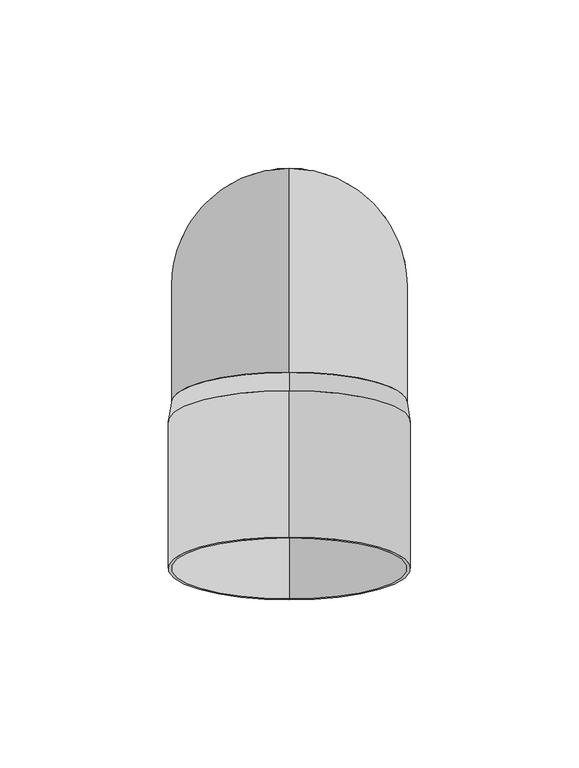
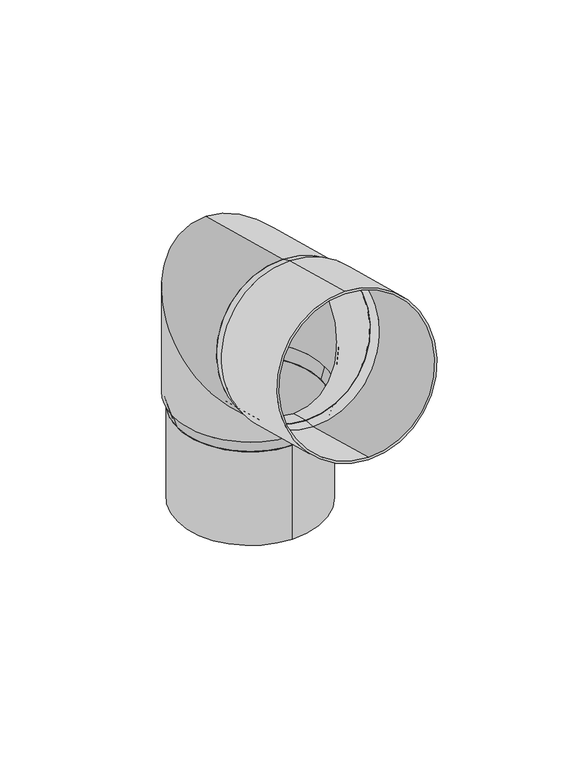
"""IFC4 building model written with IfcOpenShell, lengths in millimetres: proxy geometry, GROVIK_Downpipe_Knee : N70_75°_Up."""

from ifc_helpers import new_model, si_unit, point, frame, origin, origin_with_axes, origin_2d, place, context, project, spatial, polyline, circle_curve, ellipse_curve, trimmed, segment, composite_curve, outline, extrude, source, transform, mapped, element, save
from ifc_brep_helpers import plane_surface, cylinder_surface, revolved_surface, advanced_brep


def generic_models_ea91117c(model_context):
    return source(origin(), model_context, "Body", "SolidModel", [
        extrude(outline(composite_curve([segment(trimmed(circle_curve(origin_2d(), 33.2), [point((0.0, 33.2))], [point((0.0, -33.2))], False, "CARTESIAN"), True, "CONTINUOUS"), segment(trimmed(circle_curve(origin_2d(), 33.2), [point((0.0, -33.2))], [point((0.0, 33.2))], False, "CARTESIAN"), True, "CONTINUOUS")], self_intersect=False), holes=[composite_curve([segment(trimmed(circle_curve(origin_2d(), 32.2), [point((0.0, 32.2))], [point((0.0, -32.2))], True, "CARTESIAN"), True, "CONTINUOUS"), segment(trimmed(circle_curve(origin_2d(), 32.2), [point((0.0, -32.2))], [point((0.0, 32.2))], True, "CARTESIAN"), True, "CONTINUOUS")], self_intersect=False)]), frame((0.0, 0.0, -51.0), z_axis=(0.0, 0.0, 1.0), x_axis=(1.0, 0.0, 0.0)), (0.0, 0.0, 1.0), 45.0),
        advanced_brep(
        [(0.0, 35.0, 0.0), (0.0, -35.0, 0.0), (0.0, 34.0, 0.0), (0.0, -34.0, 0.0), (0.0, 34.0, 61.9891176), (0.0, -34.0, 9.8108824), (0.0, 35.0, 62.7564446), (0.0, -35.0, 9.0435554), (0.0, -25.6180706, 78.9990076), (0.0, -43.7354037, 11.3841998), (0.0, -25.8768896, 78.0330818), (0.0, -43.4765847, 12.3501256)],
        [
            (0, 1, circle_curve(frame((0.0, 0.0, 0.0), z_axis=(0.0, 0.0, -1.0), x_axis=(0.0, -1.0, 0.0)), 35.0)),
            (1, 0, circle_curve(frame((0.0, 0.0, 0.0), z_axis=(0.0, 0.0, -1.0), x_axis=(0.0, -1.0, 0.0)), 35.0)),
            (2, 3, circle_curve(frame((0.0, 0.0, 0.0), z_axis=(0.0, 0.0, 1.0), x_axis=(0.0, -1.0, 0.0)), 34.0)),
            (3, 2, circle_curve(frame((0.0, 0.0, 0.0), z_axis=(0.0, 0.0, 1.0), x_axis=(0.0, -1.0, 0.0)), 34.0)),
            (2, 4),
            (4, 5, ellipse_curve(frame((0.0, 0.0, 35.9), z_axis=(0.0, -0.6087614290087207, 0.7933533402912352), x_axis=(0.0, 0.7933533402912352, 0.6087614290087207)), 42.8560621, 34.0)),
            (5, 3),
            (5, 4, ellipse_curve(frame((0.0, 0.0, 35.9), z_axis=(0.0, -0.6087614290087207, 0.7933533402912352), x_axis=(0.0, 0.7933533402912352, 0.6087614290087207)), 42.8560621, 34.0)),
            (0, 6),
            (6, 7, ellipse_curve(frame((0.0, 0.0, 35.9), z_axis=(0.0, 0.6087614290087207, -0.7933533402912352), x_axis=(0.0, -0.7933533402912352, -0.6087614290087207)), 44.1165345, 35.0)),
            (7, 1),
            (7, 6, ellipse_curve(frame((0.0, 0.0, 35.9), z_axis=(0.0, 0.6087614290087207, -0.7933533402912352), x_axis=(0.0, -0.7933533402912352, -0.6087614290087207)), 44.1165345, 35.0)),
            (8, 9, circle_curve(frame((0.0, -34.6767372, 45.1916037), z_axis=(0.0, -0.9659258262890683, 0.25881904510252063), x_axis=(0.0, -0.25881904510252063, -0.9659258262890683)), 35.0)),
            (9, 8, circle_curve(frame((0.0, -34.6767372, 45.1916037), z_axis=(0.0, -0.9659258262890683, 0.25881904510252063), x_axis=(0.0, -0.25881904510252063, -0.9659258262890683)), 35.0)),
            (10, 11, circle_curve(frame((0.0, -34.6767372, 45.1916037), z_axis=(0.0, 0.9659258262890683, -0.25881904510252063), x_axis=(0.0, -0.25881904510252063, -0.9659258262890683)), 34.0)),
            (11, 10, circle_curve(frame((0.0, -34.6767372, 45.1916037), z_axis=(0.0, 0.9659258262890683, -0.25881904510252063), x_axis=(0.0, -0.25881904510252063, -0.9659258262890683)), 34.0)),
            (4, 10),
            (11, 5),
            (6, 8),
            (9, 7),
        ],
        [
            plane_surface(frame((0.0, 0.0, 0.0), z_axis=(0.0, 0.0, -1.0), x_axis=(1.0, 0.0, 0.0))),
            revolved_surface(polyline([(0.0, -34.0, 61.98911760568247), (0.0, -34.0, 0.0)]), (0.0, 0.0, 0.0), (0.0, 0.0, 1.0)),
            cylinder_surface(frame((0.0, 0.0, 0.0), z_axis=(0.0, 0.0, -1.0), x_axis=(0.0, -1.0, 0.0)), 35.0),
            plane_surface(frame((0.0, -34.6767372, 45.1916037), z_axis=(0.0, -0.9659258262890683, 0.25881904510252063), x_axis=(1.0, 0.0, 0.0))),
            revolved_surface(polyline([(0.0, -43.476584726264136, 12.350125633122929), (0.0, 16.40030494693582, -3.6938386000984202)]), (0.0, 0.0, 35.9), (0.0, -0.9659258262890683, 0.25881904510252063)),
            cylinder_surface(frame((0.0, 0.0, 35.9), z_axis=(0.0, 0.9659258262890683, -0.25881904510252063), x_axis=(0.0, -0.25881904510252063, -0.9659258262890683)), 35.0),
        ],
        [
            (0, [[1, 2], [3, 4]]),
            (1, [[-3, 5, 6, 7]]),
            (1, [[-4, -7, 8, -5]]),
            (2, [[-1, 9, 10, 11]]),
            (2, [[-2, -11, 12, -9]]),
            (3, [[13, 14], [15, 16]]),
            (4, [[-6, 17, -16, 18]]),
            (4, [[-8, -18, -15, -17]]),
            (5, [[-10, 19, -14, 20]]),
            (5, [[-12, -20, -13, -19]]),
        ],
    ),
        advanced_brep(
        [(-33.2, 0.0, -6.0), (33.2, 0.0, -6.0), (-32.2, 0.0, -6.0), (32.2, 0.0, -6.0), (-35.0, 0.0, 0.0), (35.0, 0.0, 0.0), (34.0, 0.0, 0.0), (-34.0, 0.0, 0.0)],
        [
            (0, 1, circle_curve(frame((0.0, 0.0, -6.0), z_axis=(0.0, 0.0, -1.0), x_axis=(-1.0, 0.0, 0.0)), 33.2)),
            (1, 0, circle_curve(frame((0.0, 0.0, -6.0), z_axis=(0.0, 0.0, -1.0), x_axis=(1.0, 0.0, 0.0)), 33.2)),
            (2, 3, circle_curve(frame((0.0, 0.0, -6.0), z_axis=(0.0, 0.0, 1.0), x_axis=(1.0, 0.0, 0.0)), 32.2)),
            (3, 2, circle_curve(frame((0.0, 0.0, -6.0), z_axis=(0.0, 0.0, 1.0), x_axis=(-1.0, 0.0, 0.0)), 32.2)),
            (4, 5, circle_curve(origin_with_axes(), 35.0)),
            (5, 4, circle_curve(frame((0.0, 0.0, 0.0), z_axis=(0.0, 0.0, 1.0), x_axis=(-1.0, 0.0, 0.0)), 35.0)),
            (6, 7, circle_curve(frame((0.0, 0.0, 0.0), z_axis=(0.0, 0.0, -1.0), x_axis=(1.0, 0.0, 0.0)), 34.0)),
            (7, 6, circle_curve(frame((0.0, 0.0, 0.0), z_axis=(0.0, 0.0, -1.0), x_axis=(-1.0, 0.0, 0.0)), 34.0)),
            (1, 5),
            (4, 0),
            (6, 3),
            (2, 7),
        ],
        [
            plane_surface(frame((0.0, 0.0, -6.0), z_axis=(0.0, 0.0, -1.0), x_axis=(0.0, 1.0, 0.0))),
            plane_surface(frame((0.0, 0.0, 0.0), z_axis=(0.0, 0.0, 1.0), x_axis=(0.0, 1.0, 0.0))),
            revolved_surface(polyline([(33.20000000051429, 0.0, -6.0), (35.0, 0.0, 0.0)]), (0.0, 0.0, -116.6666667), (0.0, 0.0, 1.0)),
            revolved_surface(polyline([(-33.20000000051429, 0.0, -6.0), (-35.0, 0.0, 0.0)]), (0.0, 0.0, -116.6666667), (0.0, 0.0, 1.0)),
            revolved_surface(polyline([(34.0, 0.0, 0.0), (32.19999999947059, 0.0, -6.0)]), (0.0, 0.0, -113.3333333), (0.0, 0.0, 1.0)),
        ],
        [
            (0, [[1, 2], [3, 4]]),
            (1, [[5, 6], [7, 8]]),
            (2, [[-2, 9, -5, 10]]),
            (3, [[-1, -10, -6, -9]]),
            (4, [[11, -3, 12, -7]]),
            (4, [[-11, -8, -12, -4]]),
        ],
    ),
        extrude(outline(composite_curve([segment(trimmed(circle_curve(origin_2d(), 36.0), [point((0.0, -36.0))], [point((0.0, 35.9999999))], False, "CARTESIAN"), True, "CONTINUOUS"), segment(trimmed(circle_curve(origin_2d(), 36.0), [point((0.0, 35.9999999))], [point((0.0, -36.0))], False, "CARTESIAN"), True, "CONTINUOUS")], self_intersect=False), holes=[composite_curve([segment(trimmed(circle_curve(origin_2d(), 35.0), [point((0.0, -35.0))], [point((0.0, 35.0))], True, "CARTESIAN"), True, "CONTINUOUS"), segment(trimmed(circle_curve(origin_2d(), 35.0), [point((0.0, 35.0))], [point((0.0, -35.0))], True, "CARTESIAN"), True, "CONTINUOUS")], self_intersect=False)]), frame((0.0, -40.4722921, 46.744518), z_axis=(0.0, -0.9659258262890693, 0.258819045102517), x_axis=(1.0, 0.0, 0.0)), (0.0, 0.0, 1.0), 45.0),
        advanced_brep(
        [(0.0, -43.7354037, 11.3841998), (0.0, -25.6180706, 78.9990076), (0.0, -25.8768896, 78.0330818), (0.0, -43.4765847, 12.3501256), (0.0, -49.7897777, 11.9711882), (0.0, -31.1548065, 81.5178477), (0.0, -49.5309587, 12.9371141), (0.0, -31.4136255, 80.5519219)],
        [
            (0, 1, circle_curve(frame((0.0, -34.6767372, 45.1916037), z_axis=(0.0, 0.9659258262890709, -0.25881904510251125), x_axis=(0.0, -0.2588190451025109, -0.9659258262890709)), 35.0)),
            (1, 0, circle_curve(frame((0.0, -34.6767372, 45.1916037), z_axis=(0.0, 0.9659258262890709, -0.25881904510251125), x_axis=(0.0, 0.2588190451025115, 0.9659258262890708)), 35.0)),
            (2, 3, circle_curve(frame((0.0, -34.6767372, 45.1916037), z_axis=(0.0, -0.9659258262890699, 0.25881904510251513), x_axis=(0.0, -0.2588190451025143, -0.96592582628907)), 34.0)),
            (3, 2, circle_curve(frame((0.0, -34.6767372, 45.1916037), z_axis=(0.0, -0.9659258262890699, 0.25881904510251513), x_axis=(0.0, 0.2588190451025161, 0.9659258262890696)), 34.0)),
            (4, 5, circle_curve(frame((0.0, -40.4722921, 46.744518), z_axis=(0.0, -0.9659258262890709, 0.25881904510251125), x_axis=(0.0, 0.2588190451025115, 0.9659258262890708)), 36.0)),
            (5, 4, circle_curve(frame((0.0, -40.4722921, 46.744518), z_axis=(0.0, -0.9659258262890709, 0.25881904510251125), x_axis=(0.0, -0.2588190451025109, -0.9659258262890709)), 36.0)),
            (6, 7, circle_curve(frame((0.0, -40.4722921, 46.744518), z_axis=(0.0, 0.9659258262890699, -0.25881904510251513), x_axis=(0.0, -0.2588190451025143, -0.96592582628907)), 35.0)),
            (7, 6, circle_curve(frame((0.0, -40.4722921, 46.744518), z_axis=(0.0, 0.9659258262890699, -0.25881904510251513), x_axis=(0.0, 0.2588190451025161, 0.9659258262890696)), 35.0)),
            (0, 4),
            (5, 1),
            (6, 3),
            (2, 7),
        ],
        [
            plane_surface(frame((0.0, -34.6767372, 45.1916037), z_axis=(0.0, 0.9659258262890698, -0.2588190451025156), x_axis=(-1.0, 0.0, 0.0))),
            plane_surface(frame((0.0, -40.4722921, 46.744518), z_axis=(0.0, -0.9659258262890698, 0.2588190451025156), x_axis=(-1.0, 0.0, 0.0))),
            revolved_surface(polyline([(0.0, -43.735403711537, 11.384199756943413), (0.0, -49.7897777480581, 11.971188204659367)]), (0.0, 168.1676864, -9.1603958), (0.0, -0.9659258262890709, 0.25881904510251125)),
            revolved_surface(polyline([(0.0, -25.61807055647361, 78.99900758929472), (0.0, -31.154806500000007, 81.5178477)]), (0.0, 168.1676864, -9.1603958), (0.0, -0.9659258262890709, 0.25881904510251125)),
            revolved_surface(polyline([(0.0, -49.530958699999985, 12.937114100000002), (0.0, -43.476584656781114, 12.350125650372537)]), (0.0, 162.3721314, -7.6074815), (0.0, -0.9659258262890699, 0.25881904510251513)),
        ],
        [
            (0, [[1, 2], [3, 4]]),
            (1, [[5, 6], [7, 8]]),
            (2, [[-1, 9, -6, 10]]),
            (3, [[-2, -10, -5, -9]]),
            (4, [[11, -3, 12, -7]]),
            (4, [[-11, -8, -12, -4]]),
        ],
    ),
    ])


if __name__ == "__main__":
    model = new_model("IFC4")
    model_context = context("Model", 3, world=origin())
    ifc_project = project(units=[si_unit("LENGTHUNIT", "METRE", prefix="MILLI")], contexts=[model_context])
    site = spatial("IfcSite", under=ifc_project)
    building = spatial("IfcBuilding", under=site)
    placement = place(None, origin())
    generic_models_shape = generic_models_ea91117c(model_context)
    element("IfcBuildingElementProxy", 1, Name="GROVIK_Downpipe_Knee : N70_75°_Up", ObjectType="GROVIK_Downpipe_Knee : N70_75°_Up", at=placement, inside=building, context=model_context, shape_type="MappedRepresentation", body=[
        mapped(generic_models_shape, transform((0.0, 0.0, 0.0), x_axis=(1.0, 0.0, 0.0), y_axis=(0.0, 1.0, 0.0), z_axis=(0.0, 0.0, 1.0))),
    ])
    save(model, "model.ifc")
